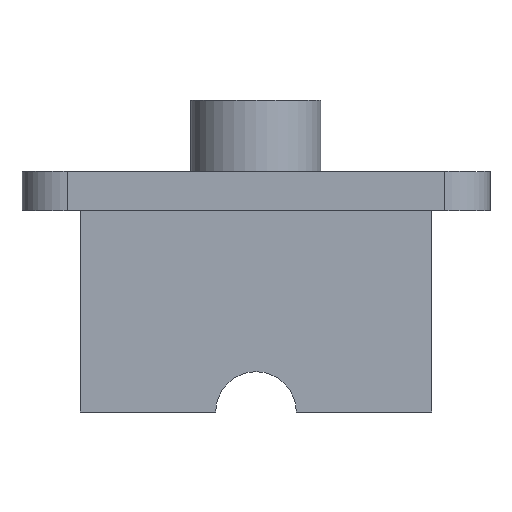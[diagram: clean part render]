
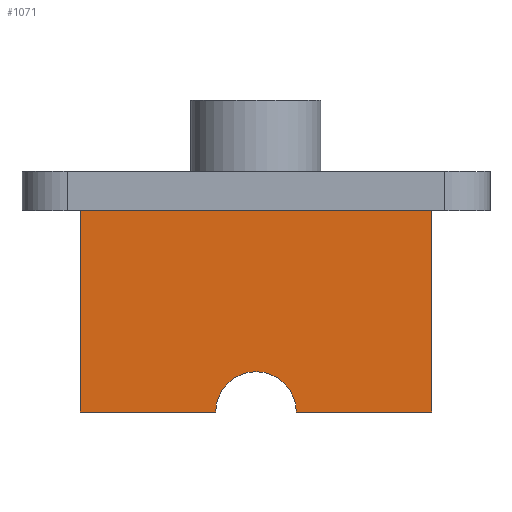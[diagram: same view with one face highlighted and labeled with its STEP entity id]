
A CAD part, front view. The second image highlights one B-rep face of the part: STEP entity #1071.
In plain terms, the highlighted planar face has unit normal (0, -1, 0).
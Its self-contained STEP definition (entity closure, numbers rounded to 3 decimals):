
#100 = PLANE('',#101);
#101 = AXIS2_PLACEMENT_3D('',#102,#103,#104);
#102 = CARTESIAN_POINT('',(-36.,-29.,31.));
#103 = DIRECTION('',(0.,0.,1.));
#104 = DIRECTION('',(1.,0.,0.));
#601 = VERTEX_POINT('',#602);
#602 = CARTESIAN_POINT('',(-27.,-23.,31.));
#618 = PLANE('',#619);
#619 = AXIS2_PLACEMENT_3D('',#620,#621,#622);
#620 = CARTESIAN_POINT('',(-27.,-23.,0.));
#621 = DIRECTION('',(1.,0.,0.));
#622 = DIRECTION('',(0.,0.,1.));
#659 = VERTEX_POINT('',#660);
#660 = CARTESIAN_POINT('',(27.,-23.,31.));
#674 = PLANE('',#675);
#675 = AXIS2_PLACEMENT_3D('',#676,#677,#678);
#676 = CARTESIAN_POINT('',(27.,-23.,0.));
#677 = DIRECTION('',(1.,0.,0.));
#678 = DIRECTION('',(0.,0.,1.));
#686 = EDGE_CURVE('',#601,#659,#687,.T.);
#687 = SURFACE_CURVE('',#688,(#692,#699),.PCURVE_S1.);
#688 = LINE('',#689,#690);
#689 = CARTESIAN_POINT('',(-27.,-23.,31.));
#690 = VECTOR('',#691,1.);
#691 = DIRECTION('',(1.,0.,0.));
#692 = PCURVE('',#100,#693);
#693 = DEFINITIONAL_REPRESENTATION('',(#694),#698);
#694 = LINE('',#695,#696);
#695 = CARTESIAN_POINT('',(9.,6.));
#696 = VECTOR('',#697,1.);
#697 = DIRECTION('',(1.,0.));
#698 = ( GEOMETRIC_REPRESENTATION_CONTEXT(2) 
PARAMETRIC_REPRESENTATION_CONTEXT() REPRESENTATION_CONTEXT('2D SPACE',''
  ) );
#699 = PCURVE('',#700,#705);
#700 = PLANE('',#701);
#701 = AXIS2_PLACEMENT_3D('',#702,#703,#704);
#702 = CARTESIAN_POINT('',(-27.,-23.,0.));
#703 = DIRECTION('',(0.,1.,0.));
#704 = DIRECTION('',(0.,0.,1.));
#705 = DEFINITIONAL_REPRESENTATION('',(#706),#710);
#706 = LINE('',#707,#708);
#707 = CARTESIAN_POINT('',(31.,0.));
#708 = VECTOR('',#709,1.);
#709 = DIRECTION('',(0.,1.));
#710 = ( GEOMETRIC_REPRESENTATION_CONTEXT(2) 
PARAMETRIC_REPRESENTATION_CONTEXT() REPRESENTATION_CONTEXT('2D SPACE',''
  ) );
#999 = EDGE_CURVE('',#1000,#601,#1002,.T.);
#1000 = VERTEX_POINT('',#1001);
#1001 = CARTESIAN_POINT('',(-27.,-23.,0.));
#1002 = SURFACE_CURVE('',#1003,(#1007,#1014),.PCURVE_S1.);
#1003 = LINE('',#1004,#1005);
#1004 = CARTESIAN_POINT('',(-27.,-23.,0.));
#1005 = VECTOR('',#1006,1.);
#1006 = DIRECTION('',(0.,0.,1.));
#1007 = PCURVE('',#618,#1008);
#1008 = DEFINITIONAL_REPRESENTATION('',(#1009),#1013);
#1009 = LINE('',#1010,#1011);
#1010 = CARTESIAN_POINT('',(0.,0.));
#1011 = VECTOR('',#1012,1.);
#1012 = DIRECTION('',(1.,0.));
#1013 = ( GEOMETRIC_REPRESENTATION_CONTEXT(2) 
PARAMETRIC_REPRESENTATION_CONTEXT() REPRESENTATION_CONTEXT('2D SPACE',''
  ) );
#1014 = PCURVE('',#700,#1015);
#1015 = DEFINITIONAL_REPRESENTATION('',(#1016),#1020);
#1016 = LINE('',#1017,#1018);
#1017 = CARTESIAN_POINT('',(0.,0.));
#1018 = VECTOR('',#1019,1.);
#1019 = DIRECTION('',(1.,0.));
#1020 = ( GEOMETRIC_REPRESENTATION_CONTEXT(2) 
PARAMETRIC_REPRESENTATION_CONTEXT() REPRESENTATION_CONTEXT('2D SPACE',''
  ) );
#1038 = PLANE('',#1039);
#1039 = AXIS2_PLACEMENT_3D('',#1040,#1041,#1042);
#1040 = CARTESIAN_POINT('',(-27.,-23.,0.));
#1041 = DIRECTION('',(0.,0.,1.));
#1042 = DIRECTION('',(1.,0.,0.));
#1071 = ADVANCED_FACE('',(#1072),#700,.F.);
#1072 = FACE_BOUND('',#1073,.F.);
#1073 = EDGE_LOOP('',(#1074,#1104,#1133,#1154,#1155,#1156));
#1074 = ORIENTED_EDGE('',*,*,#1075,.F.);
#1075 = EDGE_CURVE('',#1076,#1078,#1080,.T.);
#1076 = VERTEX_POINT('',#1077);
#1077 = CARTESIAN_POINT('',(6.2,-23.,0.));
#1078 = VERTEX_POINT('',#1079);
#1079 = CARTESIAN_POINT('',(27.,-23.,0.));
#1080 = SURFACE_CURVE('',#1081,(#1085,#1092),.PCURVE_S1.);
#1081 = LINE('',#1082,#1083);
#1082 = CARTESIAN_POINT('',(-27.,-23.,0.));
#1083 = VECTOR('',#1084,1.);
#1084 = DIRECTION('',(1.,0.,0.));
#1085 = PCURVE('',#700,#1086);
#1086 = DEFINITIONAL_REPRESENTATION('',(#1087),#1091);
#1087 = LINE('',#1088,#1089);
#1088 = CARTESIAN_POINT('',(0.,0.));
#1089 = VECTOR('',#1090,1.);
#1090 = DIRECTION('',(0.,1.));
#1091 = ( GEOMETRIC_REPRESENTATION_CONTEXT(2) 
PARAMETRIC_REPRESENTATION_CONTEXT() REPRESENTATION_CONTEXT('2D SPACE',''
  ) );
#1092 = PCURVE('',#1093,#1098);
#1093 = PLANE('',#1094);
#1094 = AXIS2_PLACEMENT_3D('',#1095,#1096,#1097);
#1095 = CARTESIAN_POINT('',(-27.,-23.,0.));
#1096 = DIRECTION('',(0.,0.,1.));
#1097 = DIRECTION('',(1.,0.,0.));
#1098 = DEFINITIONAL_REPRESENTATION('',(#1099),#1103);
#1099 = LINE('',#1100,#1101);
#1100 = CARTESIAN_POINT('',(0.,0.));
#1101 = VECTOR('',#1102,1.);
#1102 = DIRECTION('',(1.,0.));
#1103 = ( GEOMETRIC_REPRESENTATION_CONTEXT(2) 
PARAMETRIC_REPRESENTATION_CONTEXT() REPRESENTATION_CONTEXT('2D SPACE',''
  ) );
#1104 = ORIENTED_EDGE('',*,*,#1105,.F.);
#1105 = EDGE_CURVE('',#1106,#1076,#1108,.T.);
#1106 = VERTEX_POINT('',#1107);
#1107 = CARTESIAN_POINT('',(-6.2,-23.,0.));
#1108 = SURFACE_CURVE('',#1109,(#1114,#1121),.PCURVE_S1.);
#1109 = CIRCLE('',#1110,6.2);
#1110 = AXIS2_PLACEMENT_3D('',#1111,#1112,#1113);
#1111 = CARTESIAN_POINT('',(0.,-23.,0.));
#1112 = DIRECTION('',(-0.,1.,0.));
#1113 = DIRECTION('',(1.,0.,0.));
#1114 = PCURVE('',#700,#1115);
#1115 = DEFINITIONAL_REPRESENTATION('',(#1116),#1120);
#1116 = CIRCLE('',#1117,6.2);
#1117 = AXIS2_PLACEMENT_2D('',#1118,#1119);
#1118 = CARTESIAN_POINT('',(0.,27.));
#1119 = DIRECTION('',(0.,1.));
#1120 = ( GEOMETRIC_REPRESENTATION_CONTEXT(2) 
PARAMETRIC_REPRESENTATION_CONTEXT() REPRESENTATION_CONTEXT('2D SPACE',''
  ) );
#1121 = PCURVE('',#1122,#1127);
#1122 = CYLINDRICAL_SURFACE('',#1123,6.2);
#1123 = AXIS2_PLACEMENT_3D('',#1124,#1125,#1126);
#1124 = CARTESIAN_POINT('',(0.,0.,0.));
#1125 = DIRECTION('',(-0.,1.,-0.));
#1126 = DIRECTION('',(1.,0.,0.));
#1127 = DEFINITIONAL_REPRESENTATION('',(#1128),#1132);
#1128 = LINE('',#1129,#1130);
#1129 = CARTESIAN_POINT('',(-6.283,-23.));
#1130 = VECTOR('',#1131,1.);
#1131 = DIRECTION('',(1.,-0.));
#1132 = ( GEOMETRIC_REPRESENTATION_CONTEXT(2) 
PARAMETRIC_REPRESENTATION_CONTEXT() REPRESENTATION_CONTEXT('2D SPACE',''
  ) );
#1133 = ORIENTED_EDGE('',*,*,#1134,.F.);
#1134 = EDGE_CURVE('',#1000,#1106,#1135,.T.);
#1135 = SURFACE_CURVE('',#1136,(#1140,#1147),.PCURVE_S1.);
#1136 = LINE('',#1137,#1138);
#1137 = CARTESIAN_POINT('',(-27.,-23.,0.));
#1138 = VECTOR('',#1139,1.);
#1139 = DIRECTION('',(1.,0.,0.));
#1140 = PCURVE('',#700,#1141);
#1141 = DEFINITIONAL_REPRESENTATION('',(#1142),#1146);
#1142 = LINE('',#1143,#1144);
#1143 = CARTESIAN_POINT('',(0.,0.));
#1144 = VECTOR('',#1145,1.);
#1145 = DIRECTION('',(0.,1.));
#1146 = ( GEOMETRIC_REPRESENTATION_CONTEXT(2) 
PARAMETRIC_REPRESENTATION_CONTEXT() REPRESENTATION_CONTEXT('2D SPACE',''
  ) );
#1147 = PCURVE('',#1038,#1148);
#1148 = DEFINITIONAL_REPRESENTATION('',(#1149),#1153);
#1149 = LINE('',#1150,#1151);
#1150 = CARTESIAN_POINT('',(0.,0.));
#1151 = VECTOR('',#1152,1.);
#1152 = DIRECTION('',(1.,0.));
#1153 = ( GEOMETRIC_REPRESENTATION_CONTEXT(2) 
PARAMETRIC_REPRESENTATION_CONTEXT() REPRESENTATION_CONTEXT('2D SPACE',''
  ) );
#1154 = ORIENTED_EDGE('',*,*,#999,.T.);
#1155 = ORIENTED_EDGE('',*,*,#686,.T.);
#1156 = ORIENTED_EDGE('',*,*,#1157,.F.);
#1157 = EDGE_CURVE('',#1078,#659,#1158,.T.);
#1158 = SURFACE_CURVE('',#1159,(#1163,#1170),.PCURVE_S1.);
#1159 = LINE('',#1160,#1161);
#1160 = CARTESIAN_POINT('',(27.,-23.,0.));
#1161 = VECTOR('',#1162,1.);
#1162 = DIRECTION('',(0.,0.,1.));
#1163 = PCURVE('',#700,#1164);
#1164 = DEFINITIONAL_REPRESENTATION('',(#1165),#1169);
#1165 = LINE('',#1166,#1167);
#1166 = CARTESIAN_POINT('',(0.,54.));
#1167 = VECTOR('',#1168,1.);
#1168 = DIRECTION('',(1.,0.));
#1169 = ( GEOMETRIC_REPRESENTATION_CONTEXT(2) 
PARAMETRIC_REPRESENTATION_CONTEXT() REPRESENTATION_CONTEXT('2D SPACE',''
  ) );
#1170 = PCURVE('',#674,#1171);
#1171 = DEFINITIONAL_REPRESENTATION('',(#1172),#1176);
#1172 = LINE('',#1173,#1174);
#1173 = CARTESIAN_POINT('',(0.,0.));
#1174 = VECTOR('',#1175,1.);
#1175 = DIRECTION('',(1.,0.));
#1176 = ( GEOMETRIC_REPRESENTATION_CONTEXT(2) 
PARAMETRIC_REPRESENTATION_CONTEXT() REPRESENTATION_CONTEXT('2D SPACE',''
  ) );
